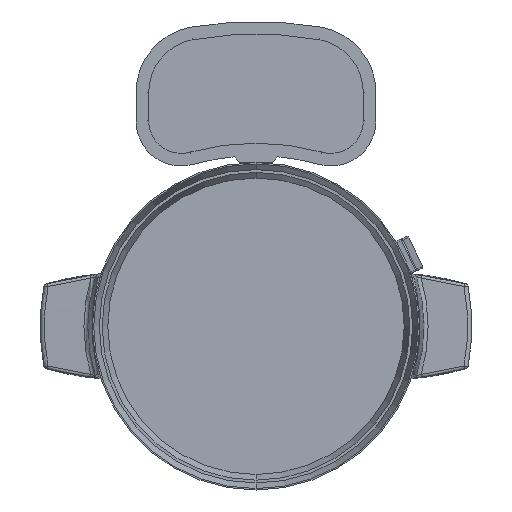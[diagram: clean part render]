
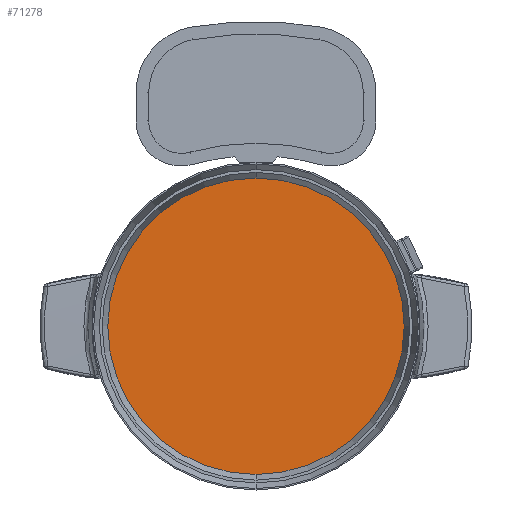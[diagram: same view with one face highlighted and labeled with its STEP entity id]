
A CAD part, front view. The second image highlights one B-rep face of the part: STEP entity #71278.
In plain terms, the highlighted planar face has unit normal (0, -1, 0).
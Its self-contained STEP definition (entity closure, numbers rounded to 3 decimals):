
#656 = FACE_OUTER_BOUND ( 'NONE', #62588, .T. ) ;
#968 = CARTESIAN_POINT ( 'NONE',  ( 0., 20., 0. ) ) ;
#2694 = ORIENTED_EDGE ( 'NONE', *, *, #70276, .F. ) ;
#12971 = DIRECTION ( 'NONE',  ( 0., 1., 0. ) ) ;
#19079 = VERTEX_POINT ( 'NONE', #22680 ) ;
#20126 = AXIS2_PLACEMENT_3D ( 'NONE', #55585, #22494, #54860 ) ;
#22494 = DIRECTION ( 'NONE',  ( 0., -1., 0. ) ) ;
#22680 = CARTESIAN_POINT ( 'NONE',  ( 0., 20., -105. ) ) ;
#29941 = AXIS2_PLACEMENT_3D ( 'NONE', #39670, #61817, #61100 ) ;
#32403 = CARTESIAN_POINT ( 'NONE',  ( 0., 20., 105. ) ) ;
#33432 = PLANE ( 'NONE',  #20126 ) ;
#39670 = CARTESIAN_POINT ( 'NONE',  ( 0., 20., 0. ) ) ;
#43142 = EDGE_CURVE ( 'NONE', #47079, #19079, #46099, .T. ) ;
#46099 = CIRCLE ( 'NONE', #64656, 105. ) ;
#46582 = ORIENTED_EDGE ( 'NONE', *, *, #43142, .F. ) ;
#47079 = VERTEX_POINT ( 'NONE', #32403 ) ;
#54860 = DIRECTION ( 'NONE',  ( 0., 0., -1. ) ) ;
#55585 = CARTESIAN_POINT ( 'NONE',  ( -105., 20., 0. ) ) ;
#61100 = DIRECTION ( 'NONE',  ( 0., 0., 1. ) ) ;
#61817 = DIRECTION ( 'NONE',  ( 0., 1., 0. ) ) ;
#62424 = DIRECTION ( 'NONE',  ( 0., 0., 1. ) ) ;
#62588 = EDGE_LOOP ( 'NONE', ( #2694, #46582 ) ) ;
#64656 = AXIS2_PLACEMENT_3D ( 'NONE', #968, #12971, #62424 ) ;
#68256 = CIRCLE ( 'NONE', #29941, 105. ) ;
#70276 = EDGE_CURVE ( 'NONE', #19079, #47079, #68256, .T. ) ;
#71278 = ADVANCED_FACE ( 'NONE', ( #656 ), #33432, .T. ) ;
